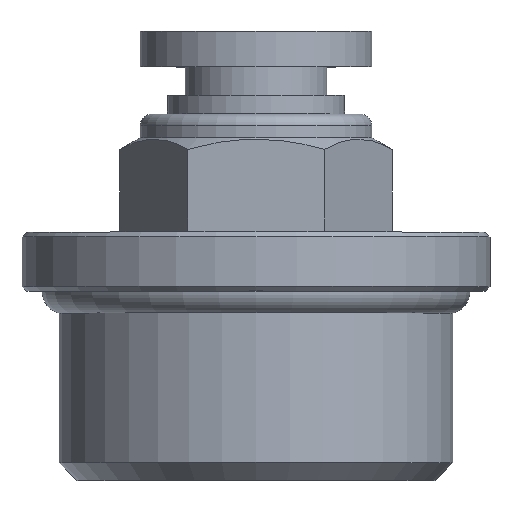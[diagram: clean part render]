
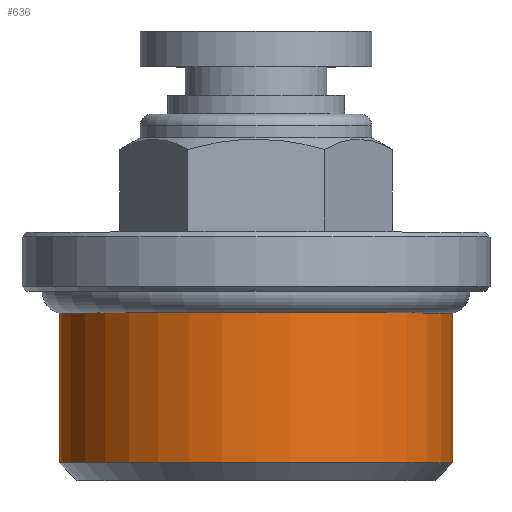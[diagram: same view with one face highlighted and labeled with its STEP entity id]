
A CAD part, top view. The second image highlights one B-rep face of the part: STEP entity #636.
In plain terms, the highlighted cylindrical face has radius 8.331 mm (diameter 16.662 mm), a full revolution.
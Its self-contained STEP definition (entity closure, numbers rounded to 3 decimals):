
#80=LINE('',#1054,#117);
#117=VECTOR('',#821,8.331);
#141=CYLINDRICAL_SURFACE('',#704,8.331);
#158=FACE_OUTER_BOUND('',#194,.T.);
#194=EDGE_LOOP('',(#485,#486,#487,#488,#489,#490));
#237=CIRCLE('',#702,8.331);
#238=CIRCLE('',#703,8.331);
#239=CIRCLE('',#705,8.331);
#240=CIRCLE('',#706,8.331);
#295=VERTEX_POINT('',#1047);
#296=VERTEX_POINT('',#1049);
#297=VERTEX_POINT('',#1053);
#298=VERTEX_POINT('',#1055);
#373=EDGE_CURVE('',#295,#296,#237,.T.);
#374=EDGE_CURVE('',#296,#295,#238,.T.);
#375=EDGE_CURVE('',#296,#297,#80,.T.);
#376=EDGE_CURVE('',#297,#298,#239,.T.);
#377=EDGE_CURVE('',#298,#297,#240,.T.);
#485=ORIENTED_EDGE('',*,*,#373,.F.);
#486=ORIENTED_EDGE('',*,*,#374,.F.);
#487=ORIENTED_EDGE('',*,*,#375,.T.);
#488=ORIENTED_EDGE('',*,*,#376,.T.);
#489=ORIENTED_EDGE('',*,*,#377,.T.);
#490=ORIENTED_EDGE('',*,*,#375,.F.);
#636=ADVANCED_FACE('',(#158),#141,.T.);
#702=AXIS2_PLACEMENT_3D('',#1050,#815,#816);
#703=AXIS2_PLACEMENT_3D('',#1051,#817,#818);
#704=AXIS2_PLACEMENT_3D('',#1052,#819,#820);
#705=AXIS2_PLACEMENT_3D('',#1056,#822,#823);
#706=AXIS2_PLACEMENT_3D('',#1057,#824,#825);
#815=DIRECTION('center_axis',(0.,-1.,0.));
#816=DIRECTION('ref_axis',(-1.,0.,0.));
#817=DIRECTION('center_axis',(0.,-1.,0.));
#818=DIRECTION('ref_axis',(-1.,0.,0.));
#819=DIRECTION('center_axis',(0.,-1.,0.));
#820=DIRECTION('ref_axis',(1.,0.,0.));
#821=DIRECTION('',(0.,1.,0.));
#822=DIRECTION('center_axis',(0.,-1.,0.));
#823=DIRECTION('ref_axis',(1.,0.,0.));
#824=DIRECTION('center_axis',(0.,-1.,0.));
#825=DIRECTION('ref_axis',(1.,0.,0.));
#1047=CARTESIAN_POINT('',(8.331,0.75,0.));
#1049=CARTESIAN_POINT('',(-8.331,0.75,0.));
#1050=CARTESIAN_POINT('Origin',(0.,0.75,0.));
#1051=CARTESIAN_POINT('Origin',(0.,0.75,0.));
#1052=CARTESIAN_POINT('Origin',(0.,4.,0.));
#1053=CARTESIAN_POINT('',(-8.331,7.079,0.));
#1054=CARTESIAN_POINT('',(-8.331,4.,0.));
#1055=CARTESIAN_POINT('',(0.,7.079,8.331));
#1056=CARTESIAN_POINT('Origin',(0.,7.079,0.));
#1057=CARTESIAN_POINT('Origin',(0.,7.079,0.));
